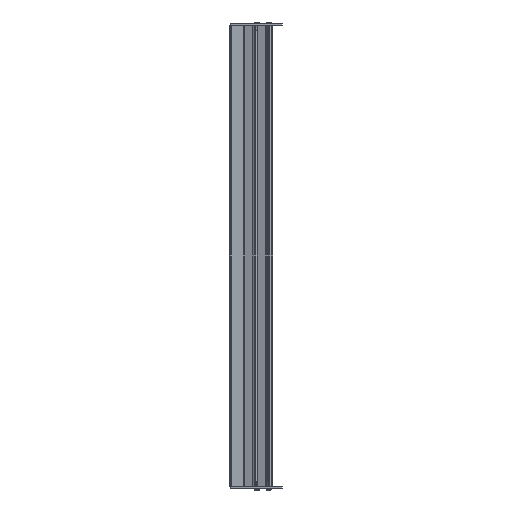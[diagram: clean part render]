
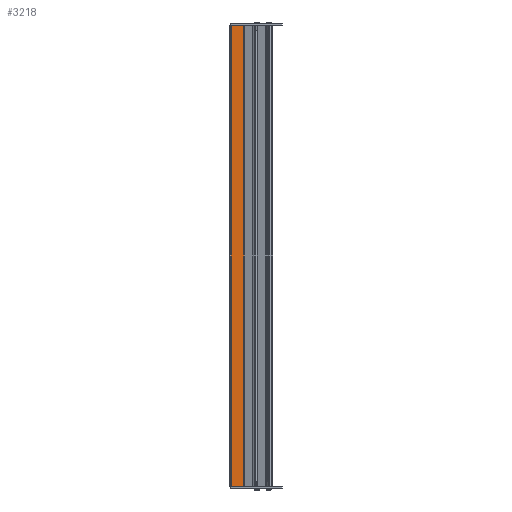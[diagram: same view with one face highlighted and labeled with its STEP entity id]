
A CAD part, left-side view. The second image highlights one B-rep face of the part: STEP entity #3218.
In plain terms, the highlighted planar face has unit normal (-1, 0, 0) as drawn and (1, 0, 0) by its records, which use the part's own axes.
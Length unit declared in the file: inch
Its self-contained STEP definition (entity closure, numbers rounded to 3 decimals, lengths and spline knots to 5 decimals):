
#2269=DIRECTION('',(0.,0.,1.));
#2270=VECTOR('',#2269,32.236);
#2271=CARTESIAN_POINT('',(0.048,0.01693,-16.118));
#2272=LINE('',#2271,#2270);
#2299=DIRECTION('',(0.,-1.,0.));
#2300=VECTOR('',#2299,0.88707);
#2301=CARTESIAN_POINT('',(0.048,0.904,-16.118));
#2302=LINE('',#2301,#2300);
#2303=DIRECTION('',(0.,-1.,0.));
#2304=VECTOR('',#2303,0.88707);
#2305=CARTESIAN_POINT('',(0.048,0.904,16.118));
#2306=LINE('',#2305,#2304);
#2307=DIRECTION('',(0.,0.,-1.));
#2308=VECTOR('',#2307,32.236);
#2309=CARTESIAN_POINT('',(0.048,0.904,16.118));
#2310=LINE('',#2309,#2308);
#2678=CARTESIAN_POINT('',(0.048,0.904,-16.118));
#2680=VERTEX_POINT('',#2678);
#2689=CARTESIAN_POINT('',(0.048,0.01693,-16.118));
#2690=VERTEX_POINT('',#2689);
#2695=CARTESIAN_POINT('',(0.048,0.904,16.118));
#2696=VERTEX_POINT('',#2695);
#2757=CARTESIAN_POINT('',(0.048,0.01693,16.118));
#2759=VERTEX_POINT('',#2757);
#3206=CARTESIAN_POINT('',(0.048,0.,16.118));
#3207=DIRECTION('',(-1.,0.,0.));
#3208=DIRECTION('',(0.,0.,1.));
#3209=AXIS2_PLACEMENT_3D('',#3206,#3207,#3208);
#3210=PLANE('',#3209);
#3211=ORIENTED_EDGE('',*,*,#3199,.T.);
#3212=ORIENTED_EDGE('',*,*,#3142,.T.);
#3213=ORIENTED_EDGE('',*,*,#3171,.F.);
#3215=ORIENTED_EDGE('',*,*,#3214,.T.);
#3216=EDGE_LOOP('',(#3211,#3212,#3213,#3215));
#3217=FACE_OUTER_BOUND('',#3216,.F.);
#3142=EDGE_CURVE('',#2690,#2759,#2272,.T.);
#3171=EDGE_CURVE('',#2696,#2759,#2306,.T.);
#3199=EDGE_CURVE('',#2680,#2690,#2302,.T.);
#3214=EDGE_CURVE('',#2696,#2680,#2310,.T.);
#3218=ADVANCED_FACE('',(#3217),#3210,.F.);
